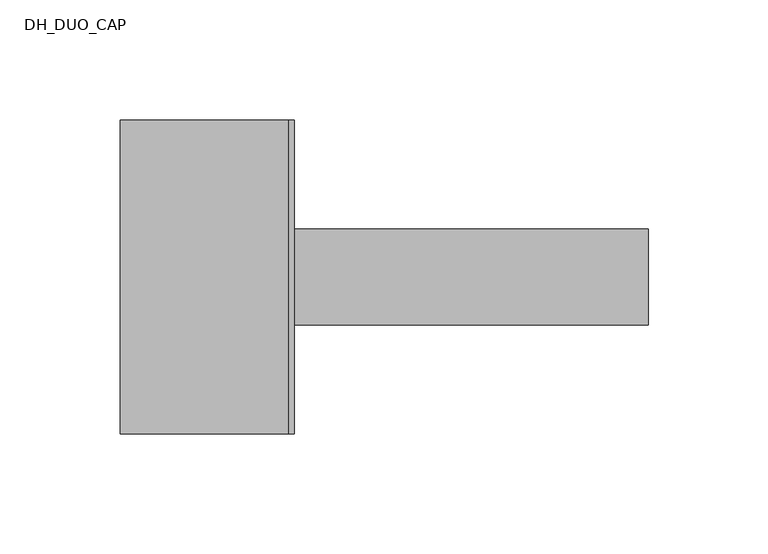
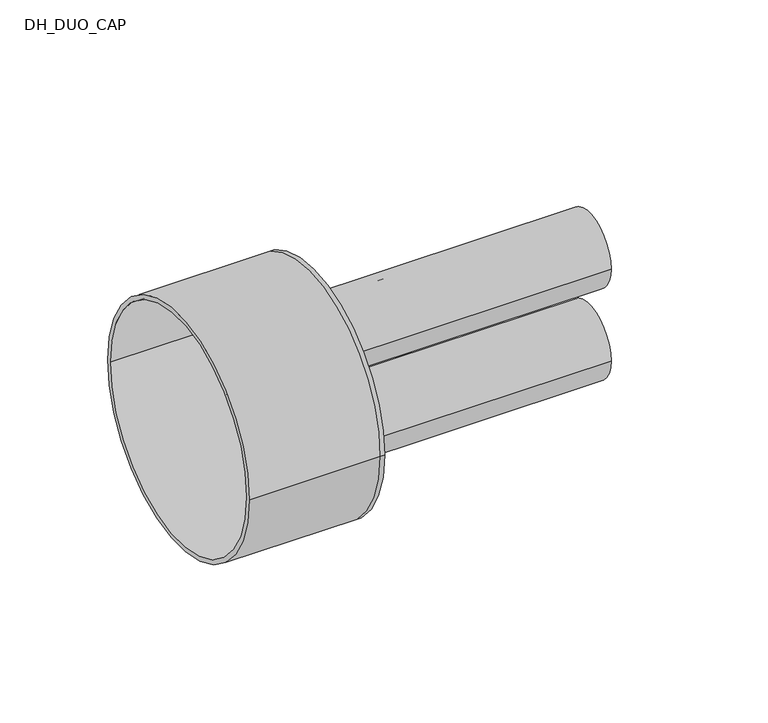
"""IFC4 building model written with IfcOpenShell, lengths in millimetres: pipe fitting geometry, DH_DUO_CAP : RAUTHERMEX DUO 11 Heating - Solid Cap."""

import ifcopenshell
import ifcopenshell.guid

model = None  # the IFC model being written
_history = None  # IfcOwnerHistory: only IFC2X3 demands one
_inside = {}  # id of a spatial element -> (the spatial element, [elements in it])
_under = {}  # id of a project, library or spatial element -> (it, [spatial elements below it])
_declared = {}  # id of a project -> (the project, [libraries it declares])
_typed = {}  # id of a type object -> (the type object, [elements of that type])
_made_of = {}  # id of a material, layer set ... -> (it, [elements and type objects made of it])


def new_model(schema):
    """Start an empty IFC model of exactly this schema.

    Asked for "IFC4X3", IfcOpenShell would pick the latest addendum, in which some entities
    have other attributes; the version numbers below select the first issue.
    IFC2X3 requires an IfcOwnerHistory on every rooted entity: one is made here for all.
    """
    global model, _history
    if schema == "IFC4X3":
        model = ifcopenshell.file(schema_version=(4, 3, 0, 0))
    else:
        model = ifcopenshell.file(schema=schema)
    _inside.clear()
    _under.clear()
    _declared.clear()
    _typed.clear()
    _made_of.clear()
    _history = None
    if model.schema == "IFC2X3":
        org = make("IfcOrganization", Name="unknown")
        user = make(
            "IfcPersonAndOrganization",
            ThePerson=make("IfcPerson", FamilyName="unknown"),
            TheOrganization=org,
        )
        app = make(
            "IfcApplication",
            ApplicationDeveloper=org,
            Version="unknown",
            ApplicationFullName="unknown",
            ApplicationIdentifier="unknown",
        )
        _history = make(
            "IfcOwnerHistory",
            OwningUser=user,
            OwningApplication=app,
            ChangeAction="ADDED",
            CreationDate=0,
        )
    return model


def make(cls, **values):
    """One entity of the class cls with the attributes given. An attribute that is None is left unset."""
    return model.create_entity(
        cls, **{name: value for name, value in values.items() if value is not None}
    )


def rooted(cls, **values):
    """An entity with a GlobalId (a new one), such as an element, a storey or a relation."""
    return make(cls, GlobalId=ifcopenshell.guid.new(), OwnerHistory=_history, **values)


def si_unit(unit_type, name, prefix=None):
    """IfcSIUnit, for example si_unit("LENGTHUNIT", "METRE", prefix="MILLI")."""
    return make("IfcSIUnit", UnitType=unit_type, Prefix=prefix, Name=name)


def assignment(units):
    """IfcUnitAssignment: the units of a project."""
    return None if units is None else make("IfcUnitAssignment", Units=units)


def point(xyz):
    """IfcCartesianPoint."""
    return None if xyz is None else make("IfcCartesianPoint", Coordinates=xyz)


def direction(xyz):
    """IfcDirection."""
    return None if xyz is None else make("IfcDirection", DirectionRatios=xyz)


def frame(location, z_axis=None, x_axis=None):
    """IfcAxis2Placement3D, a coordinate frame: its origin and axes. An axis left out is left unset."""
    return make(
        "IfcAxis2Placement3D",
        Location=point(location),
        Axis=direction(z_axis),
        RefDirection=direction(x_axis),
    )


def frame_2d(location, x_axis=None):
    """IfcAxis2Placement2D, a coordinate frame in the plane: its origin and x axis."""
    return make(
        "IfcAxis2Placement2D", Location=point(location), RefDirection=direction(x_axis)
    )


def origin():
    """The frame at (0, 0, 0) with its axes left unset."""
    return frame((0.0, 0.0, 0.0))


def place(relative_to, where):
    """IfcLocalPlacement: puts the frame where relative to a parent placement (None: the world)."""
    return make(
        "IfcLocalPlacement", PlacementRelTo=relative_to, RelativePlacement=where
    )


def context(
    kind, dimensions, precision=None, world=None, true_north=None, identifier=None
):
    """IfcGeometricRepresentationContext, for example the 3D "Model" context."""
    return make(
        "IfcGeometricRepresentationContext",
        ContextIdentifier=identifier,
        ContextType=kind,
        CoordinateSpaceDimension=dimensions,
        Precision=precision,
        WorldCoordinateSystem=world,
        TrueNorth=true_north,
    )


def project(units=None, contexts=None):
    """IfcProject with its units and contexts."""
    return rooted(
        "IfcProject",
        Name="project",
        RepresentationContexts=contexts,
        UnitsInContext=assignment(units),
    )


def spatial(cls, under=None, at=None, **own):
    """A site, building, storey or space (cls), placed at a placement, below another one or the project."""
    s = rooted(cls, ObjectPlacement=at, **own)
    if under is not None:
        _under.setdefault(under.id(), (under, []))[1].append(s)
    return s


def polyline(points):
    """IfcPolyline through the points."""
    return make("IfcPolyline", Points=[point(p) for p in points])


def circle_curve(where, radius):
    """IfcCircle in the frame where."""
    return make("IfcCircle", Position=where, Radius=radius)


def trimmed(basis, trim1, trim2, sense, master):
    """IfcTrimmedCurve: the piece of a basis curve between two trims."""
    return make(
        "IfcTrimmedCurve",
        BasisCurve=basis,
        Trim1=trim1,
        Trim2=trim2,
        SenseAgreement=sense,
        MasterRepresentation=master,
    )


def segment(curve, same_sense, transition):
    """IfcCompositeCurveSegment."""
    return make(
        "IfcCompositeCurveSegment",
        Transition=transition,
        SameSense=same_sense,
        ParentCurve=curve,
    )


def composite_curve(segments, self_intersect=None):
    """IfcCompositeCurve: segments joined end to end."""
    return make("IfcCompositeCurve", Segments=segments, SelfIntersect=self_intersect)


def outline(outer, holes=None, kind="AREA"):
    """IfcArbitraryClosedProfileDef: a profile drawn as a closed curve; with holes, ...WithVoids."""
    if holes is None:
        return make("IfcArbitraryClosedProfileDef", ProfileType=kind, OuterCurve=outer)
    return make(
        "IfcArbitraryProfileDefWithVoids",
        ProfileType=kind,
        OuterCurve=outer,
        InnerCurves=holes,
    )


def extrude(swept, where, along, depth):
    """IfcExtrudedAreaSolid: the profile swept, set in the frame where, extruded along a direction by depth."""
    return make(
        "IfcExtrudedAreaSolid",
        SweptArea=swept,
        Position=where,
        ExtrudedDirection=direction(along),
        Depth=depth,
    )


def shape(context_of_items, identifier, shape_type, items):
    """IfcShapeRepresentation: the items that make up one representation, for example the "Body"."""
    return make(
        "IfcShapeRepresentation",
        ContextOfItems=context_of_items,
        RepresentationIdentifier=identifier,
        RepresentationType=shape_type,
        Items=items,
    )


def source(mapping_origin, context_of_items, identifier, shape_type, items):
    """IfcRepresentationMap: a shape defined once, which mapped items show again and again."""
    return make(
        "IfcRepresentationMap",
        MappingOrigin=mapping_origin,
        MappedRepresentation=shape(context_of_items, identifier, shape_type, items),
    )


def transform(
    local_origin,
    x_axis=None,
    y_axis=None,
    z_axis=None,
    scale=None,
    scale2=None,
    scale3=None,
    uniform=True,
):
    """IfcCartesianTransformationOperator3D, or its non-uniform kind. x_axis, y_axis, z_axis: its Axis1, 2, 3."""
    if uniform:
        return make(
            "IfcCartesianTransformationOperator3D",
            Axis1=direction(x_axis),
            Axis2=direction(y_axis),
            LocalOrigin=point(local_origin),
            Scale=scale,
            Axis3=direction(z_axis),
        )
    return make(
        "IfcCartesianTransformationOperator3DnonUniform",
        Axis1=direction(x_axis),
        Axis2=direction(y_axis),
        LocalOrigin=point(local_origin),
        Scale=scale,
        Axis3=direction(z_axis),
        Scale2=scale2,
        Scale3=scale3,
    )


def mapped(mapping_source, mapping_target):
    """IfcMappedItem: shows the shape of a source again, moved by a transform."""
    return make(
        "IfcMappedItem", MappingSource=mapping_source, MappingTarget=mapping_target
    )


def made_of(thing, what):
    """Note that an element or type object is made of a material, layer set ...; save() writes the relation."""
    if what is not None:
        _made_of.setdefault(what.id(), (what, []))[1].append(thing)
    return thing


def element(
    cls,
    number,
    at=None,
    inside=None,
    cuts=None,
    type_object=None,
    material=None,
    context=None,
    identifier="Body",
    shape_type=None,
    held_by="IfcProductDefinitionShape",
    body=None,
    shapes=None,
    **own,
):
    """One element of the class cls, such as IfcWall. Its Tag is "e" and its number.

    at: its placement. inside: the storey or other place that contains it. cuts: it is an
    opening in that element (IfcRelVoidsElement). A single representation is given by context,
    identifier, shape_type and body (its items); several are given by shapes. held_by: the class
    of the entity that holds the representations. save() writes the other relations.
    """
    e = rooted(cls, Tag="e%d" % number, ObjectPlacement=at, **own)
    if body is not None:
        shapes = [shape(context, identifier, shape_type, body)]
    if shapes is not None:
        e.Representation = make(held_by, Representations=shapes)
    if inside is not None:
        _inside.setdefault(inside.id(), (inside, []))[1].append(e)
    if cuts is not None:
        rooted(
            "IfcRelVoidsElement", RelatingBuildingElement=cuts, RelatedOpeningElement=e
        )
    if type_object is not None:
        _typed.setdefault(type_object.id(), (type_object, []))[1].append(e)
    return made_of(e, material)


def aggregate(whole, parts):
    """IfcRelAggregates: a whole, such as a stair, and the parts it consists of."""
    return rooted("IfcRelAggregates", RelatingObject=whole, RelatedObjects=parts)


def save(model, path):
    """Write the relations noted so far, then the file.

    IfcRelAggregates (storeys below a building ...), IfcRelContainedInSpatialStructure (elements
    in a storey), IfcRelDefinesByType, IfcRelAssociatesMaterial and IfcRelDeclares: one each for
    every whole, place, type object, material and project.
    """
    for whole, parts in _under.values():
        aggregate(whole, parts)
    for where, things in _inside.values():
        rooted(
            "IfcRelContainedInSpatialStructure",
            RelatedElements=things,
            RelatingStructure=where,
        )
    for kind, things in _typed.values():
        rooted("IfcRelDefinesByType", RelatedObjects=things, RelatingType=kind)
    for what, things in _made_of.values():
        rooted("IfcRelAssociatesMaterial", RelatedObjects=things, RelatingMaterial=what)
    for by, libraries in _declared.values():
        rooted("IfcRelDeclares", RelatingContext=by, RelatedDefinitions=libraries)
    model.write(path)


def plane_surface(at):
    """IfcPlane: the flat surface through the origin of the frame at, square to its z axis."""
    return make("IfcPlane", Position=at)


def cylinder_surface(at, radius):
    """IfcCylindricalSurface: all points at the distance radius from the z axis of the frame at."""
    return make("IfcCylindricalSurface", Position=at, Radius=radius)


def revolved_surface(curve, axis_point, axis_direction):
    """IfcSurfaceOfRevolution: the curve turned about the line through axis_point along axis_direction."""
    return make(
        "IfcSurfaceOfRevolution",
        SweptCurve=make("IfcArbitraryOpenProfileDef", ProfileType="CURVE", Curve=curve),
        AxisPosition=make("IfcAxis1Placement", Location=point(axis_point), Axis=direction(axis_direction)),
    )


def advanced_brep(points, edges, surfaces, faces):
    """IfcAdvancedBrep: a solid bounded by faces that lie on surfaces and meet in shared edges.

    An edge is (start, end): straight between two places in points (the first is 0);
    or (start, end, curve); or (start, end, curve, False) where it runs against its curve.
    A face is (place in surfaces, loops), or (place, loops, False) where it looks against
    its surface's normal. A loop lists edges by number (the first is 1), with a minus sign
    where the edge is run from its end to its start. The first loop is the outer one.
    """
    corners = [point(p) for p in points]
    vertices = [make("IfcVertexPoint", VertexGeometry=c) for c in corners]
    made = []
    for start, end, *more in edges:
        made.append(
            make(
                "IfcEdgeCurve",
                EdgeStart=vertices[start],
                EdgeEnd=vertices[end],
                EdgeGeometry=more[0] if more else make("IfcPolyline", Points=[corners[start], corners[end]]),
                SameSense=more[1] if len(more) > 1 else True,
            )
        )
    hull = []
    for where, loops, *sense in faces:
        bounds = []
        for j, loop in enumerate(loops):
            ring = [make("IfcOrientedEdge", EdgeElement=made[abs(k) - 1], Orientation=k > 0) for k in loop]
            bounds.append(
                make(
                    "IfcFaceOuterBound" if j == 0 else "IfcFaceBound",
                    Bound=make("IfcEdgeLoop", EdgeList=ring),
                    Orientation=True,
                )
            )
        hull.append(make("IfcAdvancedFace", Bounds=bounds, FaceSurface=surfaces[where], SameSense=sense[0] if sense else True))
    return make("IfcAdvancedBrep", Outer=make("IfcClosedShell", CfsFaces=hull))


def dh_duo_cap_5f18a8b2(model_context):
    return source(origin(), model_context, "Body", "SolidModel", [
        extrude(outline(composite_curve([segment(trimmed(circle_curve(frame_2d((0.0, -26.0)), 20.0), [point((-20.0, -26.0))], [point((20.0, -26.0))], False, "CARTESIAN"), True, "CONTINUOUS"), segment(trimmed(circle_curve(frame_2d((0.0, -26.0)), 20.0), [point((20.0, -26.0))], [point((-20.0, -26.0))], False, "CARTESIAN"), True, "CONTINUOUS")], self_intersect=False), holes=[composite_curve([segment(trimmed(circle_curve(frame_2d((0.0, -26.0)), 16.3), [point((-16.3, -26.0))], [point((16.3, -26.0))], True, "CARTESIAN"), True, "CONTINUOUS"), segment(trimmed(circle_curve(frame_2d((0.0, -26.0)), 16.3), [point((16.3, -26.0))], [point((-16.3, -26.0))], True, "CARTESIAN"), True, "CONTINUOUS")], self_intersect=False)]), frame((0.0, 0.0, 0.0), z_axis=(1.0, 0.0, 0.0), x_axis=(0.0, 1.0, 0.0)), (0.0, 0.0, 1.0), 150.0),
        extrude(outline(composite_curve([segment(trimmed(circle_curve(frame_2d((0.0, 26.0)), 20.0), [point((-20.0, 26.0))], [point((20.0, 26.0))], False, "CARTESIAN"), True, "CONTINUOUS"), segment(trimmed(circle_curve(frame_2d((0.0, 26.0)), 20.0), [point((20.0, 26.0))], [point((-20.0, 26.0))], False, "CARTESIAN"), True, "CONTINUOUS")], self_intersect=False), holes=[composite_curve([segment(trimmed(circle_curve(frame_2d((0.0, 26.0)), 16.3), [point((-16.3, 26.0))], [point((16.3, 26.0))], True, "CARTESIAN"), True, "CONTINUOUS"), segment(trimmed(circle_curve(frame_2d((0.0, 26.0)), 16.3), [point((16.3, 26.0))], [point((-16.3, 26.0))], True, "CARTESIAN"), True, "CONTINUOUS")], self_intersect=False)]), frame((0.0, 0.0, 0.0), z_axis=(1.0, 0.0, 0.0), x_axis=(0.0, 1.0, 0.0)), (0.0, 0.0, 1.0), 150.0),
        advanced_brep(
        [(-70.0, -65.5, 0.0), (-70.0, 65.5, 0.0), (-70.0, -63.0, 0.0), (-70.0, 63.0, 0.0), (0.0, -63.0, 0.0), (0.0, 63.0, 0.0), (0.0, -65.5, 0.0), (0.0, 65.5, 0.0), (0.0, 20.0, 26.0), (0.0, -20.0, 26.0), (0.0, 20.0, -26.0), (0.0, -20.0, -26.0), (2.5, -65.5, 0.0), (2.5, 65.5, 0.0), (2.5, -20.0, 26.0), (2.5, 20.0, 26.0), (2.5, -20.0, -26.0), (2.5, 20.0, -26.0)],
        [
            (0, 1, circle_curve(frame((-70.0, 0.0, 0.0), z_axis=(-1.0, 0.0, 0.0), x_axis=(0.0, 1.0, 0.0)), 65.5)),
            (1, 0, circle_curve(frame((-70.0, 0.0, 0.0), z_axis=(-1.0, 0.0, 0.0), x_axis=(0.0, 1.0, 0.0)), 65.5)),
            (2, 3, circle_curve(frame((-70.0, 0.0, 0.0), z_axis=(1.0, 0.0, 0.0), x_axis=(0.0, 1.0, 0.0)), 63.0)),
            (3, 2, circle_curve(frame((-70.0, 0.0, 0.0), z_axis=(1.0, 0.0, 0.0), x_axis=(0.0, 1.0, 0.0)), 63.0)),
            (2, 4),
            (4, 5, circle_curve(frame((0.0, 0.0, 0.0), z_axis=(1.0, 0.0, 0.0), x_axis=(0.0, 1.0, 0.0)), 63.0)),
            (5, 3),
            (5, 4, circle_curve(frame((0.0, 0.0, 0.0), z_axis=(1.0, 0.0, 0.0), x_axis=(0.0, 1.0, 0.0)), 63.0)),
            (0, 6),
            (6, 7, circle_curve(frame((0.0, 0.0, 0.0), z_axis=(-1.0, 0.0, 0.0), x_axis=(0.0, 1.0, 0.0)), 65.5)),
            (7, 1),
            (7, 6, circle_curve(frame((0.0, 0.0, 0.0), z_axis=(-1.0, 0.0, 0.0), x_axis=(0.0, 1.0, 0.0)), 65.5)),
            (8, 9, circle_curve(frame((0.0, 0.0, 26.0), z_axis=(1.0, 0.0, 0.0), x_axis=(0.0, 1.0, 0.0)), 20.0)),
            (9, 8, circle_curve(frame((0.0, 0.0, 26.0), z_axis=(1.0, 0.0, 0.0), x_axis=(0.0, 1.0, 0.0)), 20.0)),
            (10, 11, circle_curve(frame((0.0, 0.0, -26.0), z_axis=(1.0, 0.0, 0.0), x_axis=(0.0, 1.0, 0.0)), 20.0)),
            (11, 10, circle_curve(frame((0.0, 0.0, -26.0), z_axis=(1.0, 0.0, 0.0), x_axis=(0.0, 1.0, 0.0)), 20.0)),
            (12, 13, circle_curve(frame((2.5, 0.0, 0.0), z_axis=(1.0, 0.0, 0.0), x_axis=(0.0, 1.0, 0.0)), 65.5)),
            (13, 12, circle_curve(frame((2.5, 0.0, 0.0), z_axis=(1.0, 0.0, 0.0), x_axis=(0.0, 1.0, 0.0)), 65.5)),
            (14, 15, circle_curve(frame((2.5, 0.0, 26.0), z_axis=(-1.0, 0.0, 0.0), x_axis=(0.0, 1.0, 0.0)), 20.0)),
            (15, 14, circle_curve(frame((2.5, 0.0, 26.0), z_axis=(-1.0, 0.0, 0.0), x_axis=(0.0, 1.0, 0.0)), 20.0)),
            (16, 17, circle_curve(frame((2.5, 0.0, -26.0), z_axis=(-1.0, 0.0, 0.0), x_axis=(0.0, 1.0, 0.0)), 20.0)),
            (17, 16, circle_curve(frame((2.5, 0.0, -26.0), z_axis=(-1.0, 0.0, 0.0), x_axis=(0.0, 1.0, 0.0)), 20.0)),
            (13, 7),
            (6, 12),
            (8, 15),
            (14, 9),
            (10, 17),
            (16, 11),
        ],
        [
            plane_surface(frame((-70.0, 0.0, 0.0), z_axis=(-1.0, 0.0, 0.0), x_axis=(0.0, 0.0, 1.0))),
            revolved_surface(polyline([(0.0, 63.0, 0.0), (-70.0, 63.0, 0.0)]), (-70.0, 0.0, 0.0), (1.0, 0.0, 0.0)),
            cylinder_surface(frame((-70.0, 0.0, 0.0), z_axis=(-1.0, 0.0, 0.0), x_axis=(0.0, 1.0, 0.0)), 65.5),
            plane_surface(frame((0.0, 0.0, 0.0), z_axis=(-1.0, 0.0, 0.0), x_axis=(0.0, 0.0, 1.0))),
            plane_surface(frame((2.5, 0.0, 0.0), z_axis=(1.0, 0.0, 0.0), x_axis=(0.0, 0.0, 1.0))),
            cylinder_surface(frame((0.0, 0.0, 0.0), z_axis=(-1.0, 0.0, 0.0), x_axis=(0.0, 1.0, 0.0)), 65.5),
            revolved_surface(polyline([(0.0, 20.0, 26.0), (2.5, 20.0, 26.0)]), (0.0, 0.0, 26.0), (-1.0, 0.0, 0.0)),
            revolved_surface(polyline([(0.0, 20.0, -26.0), (2.5, 20.0, -26.0)]), (0.0, 0.0, -26.0), (-1.0, 0.0, 0.0)),
        ],
        [
            (0, [[1, 2], [3, 4]]),
            (1, [[-3, 5, 6, 7]]),
            (1, [[-4, -7, 8, -5]]),
            (2, [[-1, 9, 10, 11]]),
            (2, [[-2, -11, 12, -9]]),
            (3, [[-6, -8], [13, 14], [15, 16]]),
            (4, [[17, 18], [19, 20], [21, 22]]),
            (5, [[-18, 23, -10, 24]]),
            (5, [[-17, -24, -12, -23]]),
            (6, [[25, -19, 26, -13]]),
            (6, [[-25, -14, -26, -20]]),
            (7, [[27, -21, 28, -15]]),
            (7, [[-27, -16, -28, -22]]),
        ],
    ),
    ])


if __name__ == "__main__":
    model = new_model("IFC4")
    model_context = context("Model", 3, world=origin())
    ifc_project = project(units=[si_unit("LENGTHUNIT", "METRE", prefix="MILLI")], contexts=[model_context])
    site = spatial("IfcSite", under=ifc_project)
    building = spatial("IfcBuilding", under=site)
    placement = place(None, origin())
    dh_duo_cap_shape = dh_duo_cap_5f18a8b2(model_context)
    element("IfcPipeFitting", 1, ObjectType="DH_DUO_CAP : RAUTHERMEX DUO 11 Heating - Solid Cap", at=placement, inside=building, context=model_context, shape_type="MappedRepresentation", body=[
        mapped(dh_duo_cap_shape, transform((0.0, 0.0, 0.0), x_axis=(1.0, 0.0, 0.0), y_axis=(0.0, 1.0, 0.0), z_axis=(0.0, 0.0, 1.0))),
    ])
    save(model, "model.ifc")
